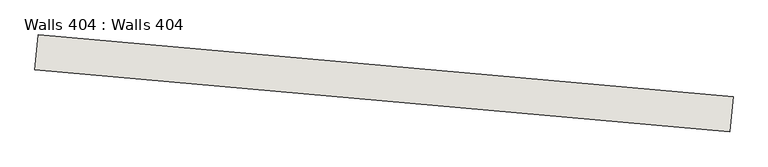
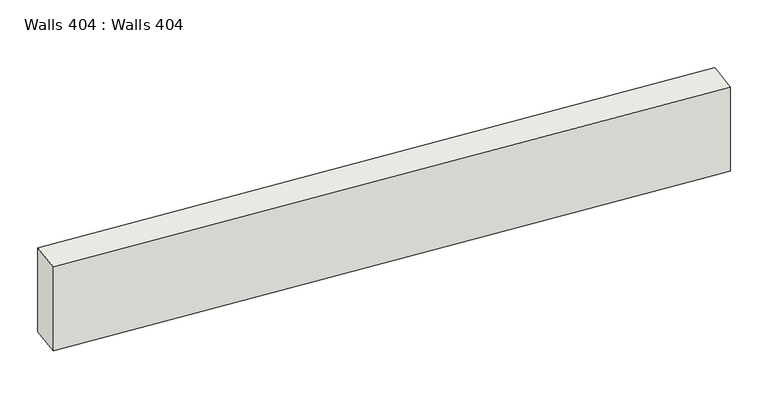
"""IFC4 building model written with IfcOpenShell, lengths in millimetres: wall geometry, Walls 404 : Walls 404."""

from ifc_helpers import new_model, si_unit, frame, origin, place, context, project, spatial, polyline, outline, extrude, source, transform, mapped, element, save


def walls_404_walls_404_892afc10(model_context):
    return source(origin(), model_context, "Body", "SweptSolid", [
        extrude(outline(polyline([(-555107.0271375, -429225.1150188), (-555142.5220676, -429623.5370437), (-563110.962566, -428913.6384424), (-563075.467636, -428515.2164175), (-555107.0271375, -429225.1150188)])), frame((0.0, 0.0, 636860.0), z_axis=(0.0, 0.0, 1.0), x_axis=(1.0, 0.0, 0.0)), (0.0, 0.0, 1.0), 1100.0),
    ])


if __name__ == "__main__":
    model = new_model("IFC4")
    model_context = context("Model", 3, world=origin())
    ifc_project = project(units=[si_unit("LENGTHUNIT", "METRE", prefix="MILLI")], contexts=[model_context])
    site = spatial("IfcSite", under=ifc_project)
    building = spatial("IfcBuilding", under=site)
    placement = place(None, origin())
    walls_404_walls_404_shape = walls_404_walls_404_892afc10(model_context)
    element("IfcWall", 1, ObjectType="Walls 404 : Walls 404", at=placement, inside=building, context=model_context, shape_type="MappedRepresentation", body=[
        mapped(walls_404_walls_404_shape, transform((0.0, 0.0, 0.0), x_axis=(1.0, 0.0, 0.0), y_axis=(0.0, 1.0, 0.0), z_axis=(0.0, 0.0, 1.0))),
    ])
    save(model, "model.ifc")
